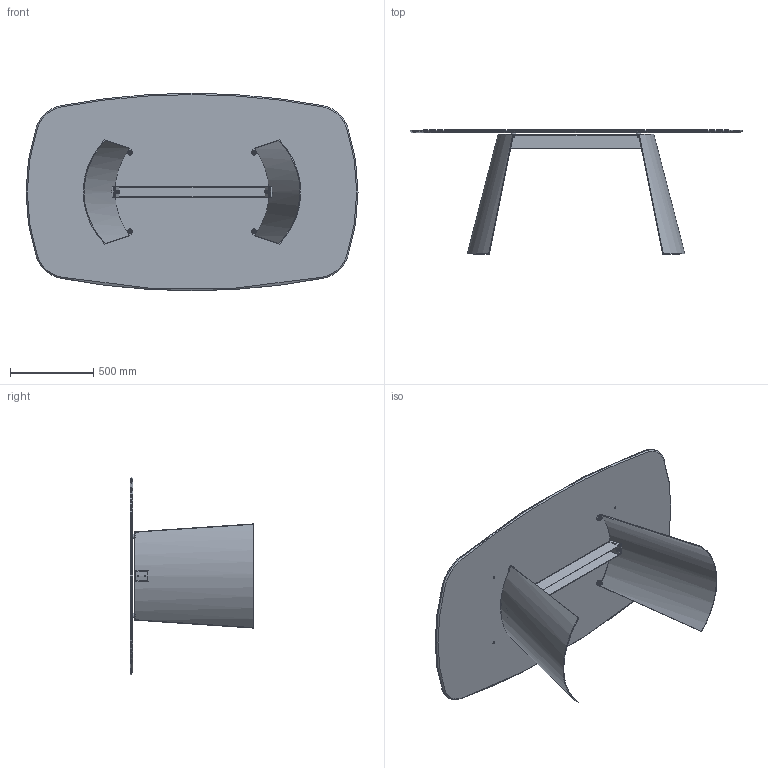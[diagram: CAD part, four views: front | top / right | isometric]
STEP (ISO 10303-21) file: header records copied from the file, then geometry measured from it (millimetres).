
FILE_DESCRIPTION (( 'STEP AP203' ), '1' );
FILE_NAME ('DN40C.STEP', '2024-08-07T14:56:00', ( '' ), ( '' ), 'SwSTEP 2.0', 'SolidWorks 2022', '' );
FILE_SCHEMA (( 'CONFIG_CONTROL_DESIGN' ));
Length unit declared in the file: millimetre
Products named in the file (14): rondella M8X24; DNB300000_01-02-GAMBA DORIAN; GRANO M8X35_barra; DNB300000_03-02-PIASTRINA; DNBX00000-01-DORIAN TRAVERSO LXXXX PER TAVOLO LX00_L.970; feltro Ø12x3; rondella M8_8X16; DNB300000_02-02-RISCONTRO STANGONE CENTRALE; K4XCMXX-00-Piani Sagomati in ceramica_2000 x 1190; SDNB300000-02-GAMBA X TRASP; DN40C; nut_M8_M8; 434070-00-PIEDINO TPV GOMMA NERO D. 30x8max18; DNB400000-02-ASSIEME STRUTTURA COMPLETA_L.960
Assembly tree (37 placements, depth 4):
  DN40C
    K4XCMXX-00-Piani Sagomati in ceramica_2000 x 1190
    DNB400000-02-ASSIEME STRUTTURA COMPLETA_L.960
      SDNB300000-02-GAMBA X TRASP  x2
        DNB300000_01-02-GAMBA DORIAN
        DNB300000_02-02-RISCONTRO STANGONE CENTRALE
        DNB300000_03-02-PIASTRINA
      DNBX00000-01-DORIAN TRAVERSO LXXXX PER TAVOLO LX00_L.970
    434070-00-PIEDINO TPV GOMMA NERO D. 30x8max18  x4
    nut_M8_M8  x8
    rondella M8X24  x4
    GRANO M8X35_barra  x4
    rondella M8_8X16  x4
    feltro Ø12x3  x4
Bounding box: 2000 x 746 x 1190 mm (x, y, z)
Volume: 39735040.2 mm3; surface area: 11058130.6 mm2
Topology: 45 solids, 45 shells, 567 faces, 1295 edges, 818 vertices
Faces by surface type: plane 222, cylinder 158, cone 89, torus 80, bspline 18
Entity records: 9612 total; most frequent: CARTESIAN_POINT 1899, DIRECTION 1220, ORIENTED_EDGE 1122, EDGE_CURVE 561, AXIS2_PLACEMENT_3D 455, VERTEX_POINT 362, VECTOR 310, LINE 310
